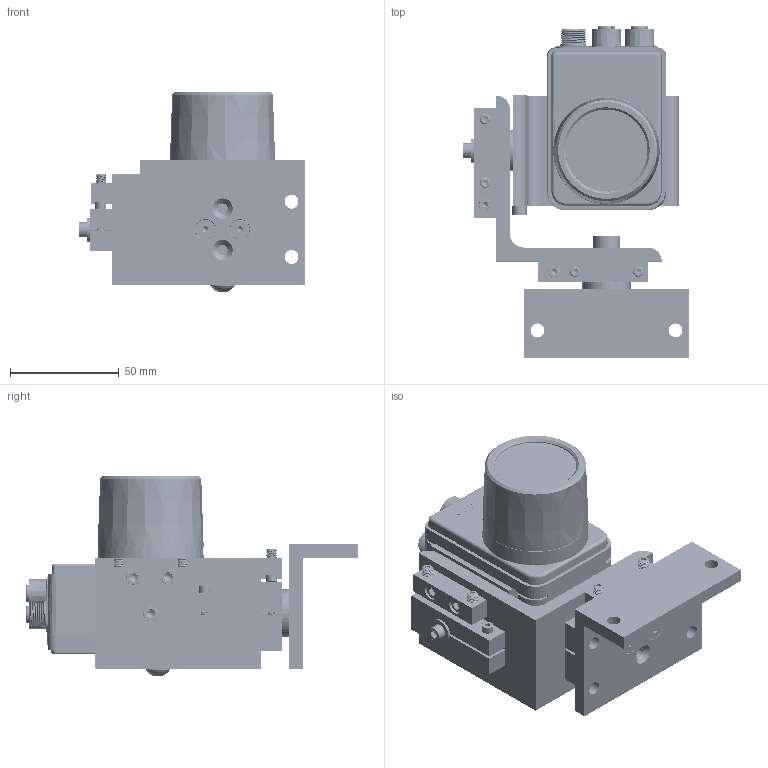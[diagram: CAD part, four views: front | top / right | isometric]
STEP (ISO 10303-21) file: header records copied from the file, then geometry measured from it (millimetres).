
FILE_DESCRIPTION(/* description */ ('VariCAD 2015-1.03 AP-203'),/* implementation_level */ '2;1');
FILE_NAME(/* name */ 'FM1_2a-LMP-CongexIS7100.stp',/* time_stamp */ '2015-03-04T17:32:26-05:00',/* author */ (''),/* organization */ (''),/* preprocessor_version */ 'ST-DEVELOPER v14',/* originating_system */ 'VariCAD 2015-1.03; kernel version (20130303)',/* authorisation */ '');
FILE_SCHEMA (('CONFIG_CONTROL_DESIGN'));
Products named in the file (42): FM1_2a-LMP-CongexIS7100; Screw 1/4x; Bracket, Mounting, Single 2, Rogue_1; Assy, C-Mount Lens Cover, Rogue_1; socket head cap screw_am 1_B18.3.1M - 2.5 x 0.45 x 6 Hex SHCS -- 6NHX; Assy, Main, Rogue solid 1_1<6>; Assy, Main, Rogue solid 1_1<5>; Assy, Main, Rogue solid 1_1<4>; Assy, Main, Rogue solid 1_1<3>; Assy, Main, Rogue solid 1_1<2>; Assy, Main, Rogue solid 1_1<1>; Washer No.8
Assembly tree (41 placements, depth 2):
  FM1_2a-LMP-CongexIS7100
    Screw 1/4x
    Bracket, Mounting, Single 2, Rogue_1
    Assy, C-Mount Lens Cover, Rogue_1
    socket head cap screw_am 1_B18.3.1M - 2.5 x 0.45 x 6 Hex SHCS -- 6NHX
    socket head cap screw_am 1_B18.3.1M - 2.5 x 0.45 x 6 Hex SHCS -- 6NHX
    socket head cap screw_am 1_B18.3.1M - 2.5 x 0.45 x 6 Hex SHCS -- 6NHX
    socket head cap screw_am 1_B18.3.1M - 2.5 x 0.45 x 6 Hex SHCS -- 6NHX
    Assy, Main, Rogue solid 1_1<6>
    Assy, Main, Rogue solid 1_1<5>
    Assy, Main, Rogue solid 1_1<4>
    Assy, Main, Rogue solid 1_1<3>
    Assy, Main, Rogue solid 1_1<2>
    Assy, Main, Rogue solid 1_1<1>
    (unnamed)
    (unnamed)
    (unnamed)
    (unnamed)
    (unnamed)
    (unnamed)
    (unnamed)
    (unnamed)
    (unnamed)
    (unnamed)
    (unnamed)
    (unnamed)
    (unnamed)
    (unnamed)
    (unnamed)
    (unnamed)
    (unnamed)
    (unnamed)
    (unnamed)
    Washer No.8
    (unnamed)
    (unnamed)
    (unnamed)
    (unnamed)
    (unnamed)
    (unnamed)
    (unnamed)
    (unnamed)
Bounding box: 104.3 x 152.71 x 91.6 mm (x, y, z)
Volume: 199515.6 mm3; surface area: 147966 mm2
Topology: 40 solids, 41 shells, 7876 faces, 18491 edges, 11195 vertices
Faces by surface type: plane 3263, cylinder 1959, cone 1709, bspline 754, torus 146, sphere 45
Full cylindrical faces by diameter (mm): 11.45 x2
Entity records: 325975 total; most frequent: CARTESIAN_POINT 156690, ORIENTED_EDGE 36522, DIRECTION 30085, EDGE_CURVE 18317, VERTEX_POINT 11148, LINE 10293, VECTOR 10293, AXIS2_PLACEMENT_3D 9896
